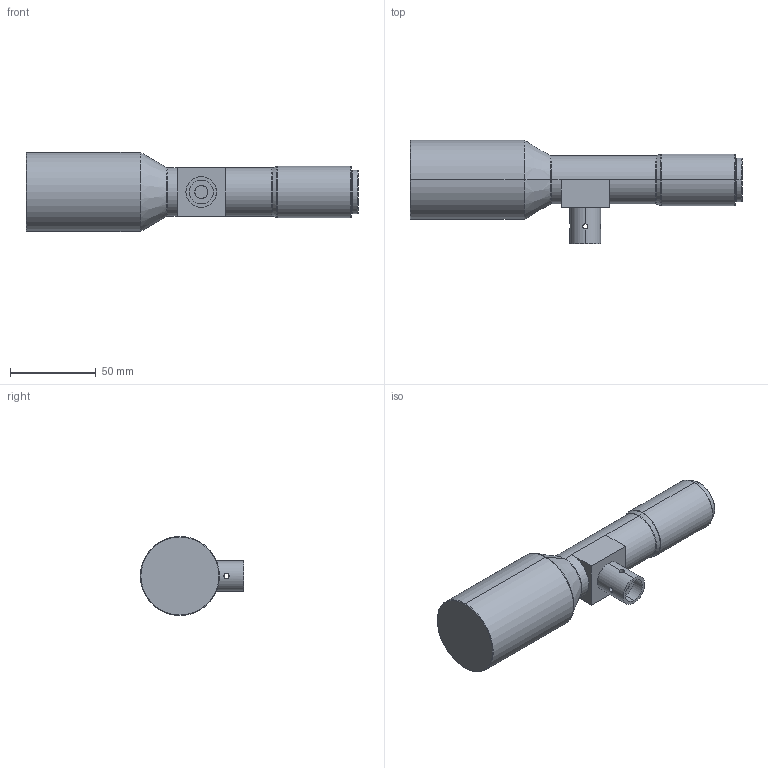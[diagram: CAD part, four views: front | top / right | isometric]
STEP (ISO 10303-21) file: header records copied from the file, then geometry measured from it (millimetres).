
FILE_DESCRIPTION (( 'STEP AP203' ), '1' );
FILE_NAME ('WWH098-280CT-230V2.STEP', '2021-12-23T08:51:12', ( '' ), ( '' ), 'SwSTEP 2.0', 'SolidWorks 2017', '' );
FILE_SCHEMA (( 'CONFIG_CONTROL_DESIGN' ));
Length unit declared in the file: millimetre
Products named in the file (1): WWH098-280CT-230V2
Bounding box: 193.2 x 60.1 x 46 mm (x, y, z)
Volume: 207095.2 mm3; surface area: 26768 mm2
Topology: 1 solids, 1 shells, 55 faces, 130 edges, 78 vertices
Faces by surface type: cylinder 25, plane 12, cone 10, torus 8
Entity records: 2043 total; most frequent: CARTESIAN_POINT 690, DIRECTION 274, ORIENTED_EDGE 260, EDGE_CURVE 130, AXIS2_PLACEMENT_3D 112, VERTEX_POINT 78, EDGE_LOOP 64, CIRCLE 56
